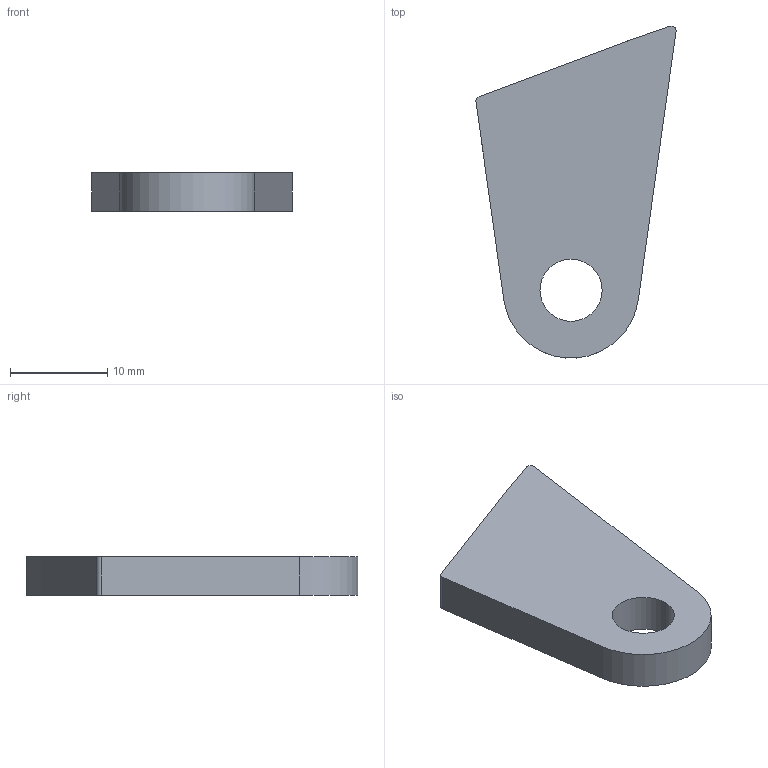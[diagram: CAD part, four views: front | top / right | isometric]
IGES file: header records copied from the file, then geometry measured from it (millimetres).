
Start section: START RECORD GO HERE.
Global section: file name: Chape_LFLA-Arm_F_Down.igs; native system: IBM CATIA IGES - CATIA Version 5 Release 19 ; preprocessor: CATIA Version 5 Release 19 ; author: alexb; organization: LAPTOP-PR6NE7IP; date: 20191216.204134; units: millimetre
Bounding box: 20.61 x 34.19 x 4 mm (x, y, z)
Surface area: 1357.5 mm2 (no closed solid volume)
Topology: 0 solids, 0 shells, 12 faces, 64 edges, 68 vertices
Faces by surface type: revolution 6, plane 4, extrusion 2
